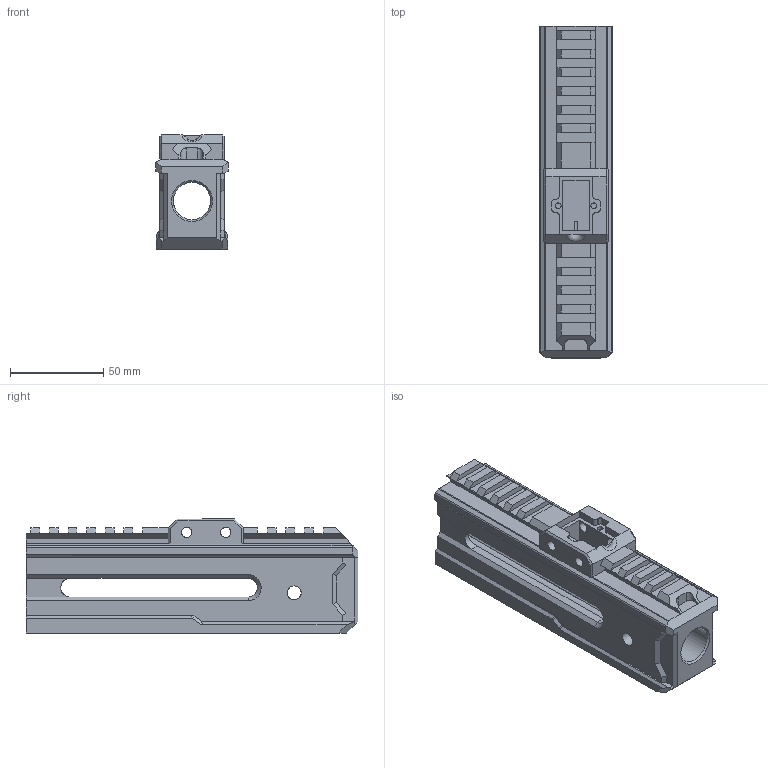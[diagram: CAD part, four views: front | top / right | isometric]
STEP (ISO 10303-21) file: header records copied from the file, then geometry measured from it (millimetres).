
FILE_DESCRIPTION(('HOOPS Exchange Step'),'2;1');
FILE_NAME('/private/var/mobile/Containers/Data/Application/B41F1AF9-3ED7-45D6-8FBD-F140B762F35E/tmp/export/temp_export','2026-08-07T20:34:47+19:00',('mobile'),('Shapr3D Limited'),'HOOPS Exchange 2026.3','Shapr3D','Authorized');
FILE_SCHEMA( ('AP242_MANAGED_MODEL_BASED_3D_ENGINEERING_MIM_LF {1 0 10303 442 1 1 4}') );
Length unit declared in the file: millimetre
Products named in the file (5): Upper hand guard; DONE; HG Top Front.step; Front; root
Assembly tree (4 placements, depth 5):
  root
    Front
      HG Top Front.step
        DONE
          Upper hand guard
Bounding box: 39.02 x 178.32 x 61.31 mm (x, y, z)
Volume: 218954.6 mm3; surface area: 61397.1 mm2
Topology: 1 solids, 1 shells, 274 faces, 770 edges, 499 vertices
Faces by surface type: plane 197, cylinder 53, bspline 15, cone 8, torus 1
Full cylindrical faces by diameter (mm): 3 x2, 4.9 x4, 5.5 x3, 7.5 x2, 20 x1
Entity records: 10499 total; most frequent: CARTESIAN_POINT 3380, ORIENTED_EDGE 1540, DIRECTION 1331, EDGE_CURVE 770, VECTOR 613, LINE 613, VERTEX_POINT 499, AXIS2_PLACEMENT_3D 359
